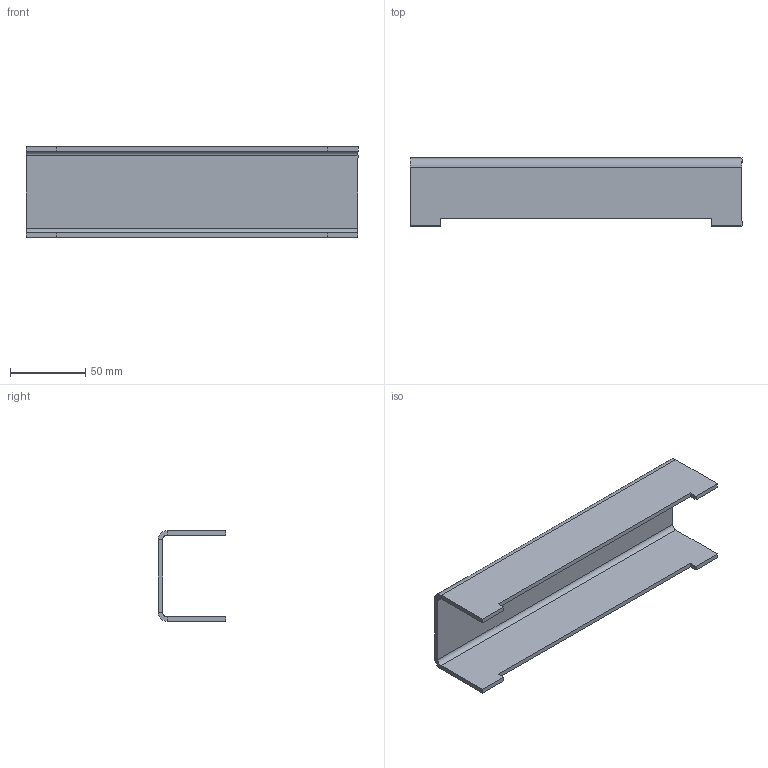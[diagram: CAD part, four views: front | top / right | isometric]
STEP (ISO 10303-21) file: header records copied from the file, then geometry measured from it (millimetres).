
FILE_DESCRIPTION (( 'STEP AP203' ), '1' );
FILE_NAME ('ORW-72.24.30.002 Ïðîôèëü.STEP', '2025-10-13T13:18:11', ( 'Àíäðåé' ), ( '' ), 'SwSTEP 2.0', 'SolidWorks 2025', '' );
FILE_SCHEMA (( 'CONFIG_CONTROL_DESIGN' ));
Length unit declared in the file: millimetre
Products named in the file (1): ORW-72.24.30.002 Профиль
Bounding box: 220 x 45 x 60 mm (x, y, z)
Volume: 87090.5 mm3; surface area: 60281.2 mm2
Topology: 1 solids, 1 shells, 30 faces, 68 edges, 40 vertices
Faces by surface type: plane 26, cylinder 4
Entity records: 883 total; most frequent: CARTESIAN_POINT 143, ORIENTED_EDGE 136, DIRECTION 134, EDGE_CURVE 68, VECTOR 56, LINE 56, VERTEX_POINT 40, AXIS2_PLACEMENT_3D 39
